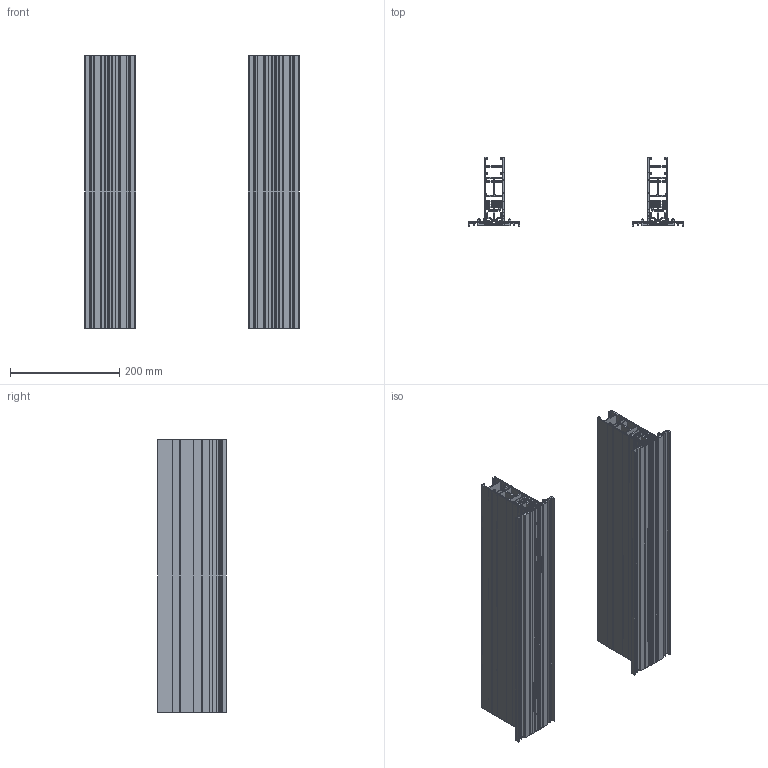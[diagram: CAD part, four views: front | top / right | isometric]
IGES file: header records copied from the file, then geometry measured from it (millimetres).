
Global section: file name: Mullion LD0440; native system: AutoCAD 2023 - English; preprocessor: Autodesk Translation Framework DWG producer (atf_dwg_producer); organization: unknown; date: 20260203.131749; units: millimetre
Bounding box: 394 x 126.5 x 500 mm (x, y, z)
Volume: 3880531.1 mm3; surface area: 3683186.5 mm2
Topology: 18 solids, 18 shells, 1456 faces, 4260 edges, 2840 vertices
Faces by surface type: bspline 1456
